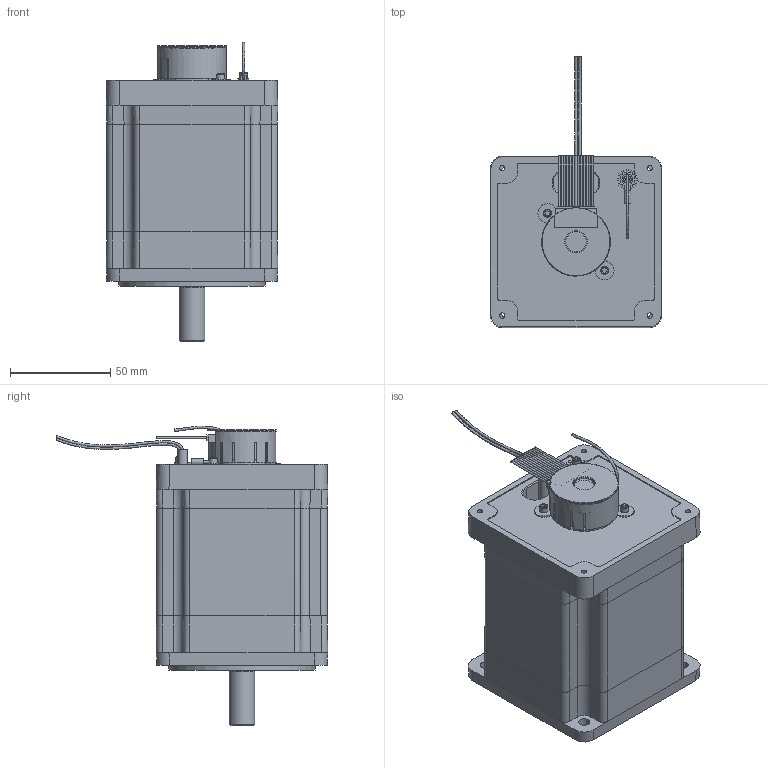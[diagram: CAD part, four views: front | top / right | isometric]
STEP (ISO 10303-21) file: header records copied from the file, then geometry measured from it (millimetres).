
FILE_DESCRIPTION((''),'2;1');
FILE_NAME('C:\CAD_work\Dummy_Modeling_Project_02-12-05\3D MODELS\BE342_FO.stp','2005-12-20T16:08:55',('jevans'),(''),'Autodesk Inventor 10','Autodesk Inventor 10','');
FILE_SCHEMA(('AUTOMOTIVE_DESIGN { 1 0 10303 214 1 1 1 1 }'));
Length unit declared in the file: inch
Products named in the file (1): BE34_FO
Bounding box: 85.66 x 135.58 x 149.76 mm (x, y, z)
Volume: 668768.9 mm3; surface area: 71826.1 mm2
Topology: 7 solids, 7 shells, 620 faces, 1591 edges, 1038 vertices
Faces by surface type: plane 350, cylinder 146, bspline 108, cone 15, torus 1
Full cylindrical faces by diameter (mm): 1.016 x13, 1.27 x1, 2.159 x2, 2.5 x2, 3.02 x1, 3.871 x1, 4.013 x3, 4.762 x1, 4.953 x1, 9.525 x2, 10.16 x1, 10.312 x1, 11.176 x1, 12.7 x1, 14.994 x1, 15 x1, 32 x1, 32.007 x1, 32.995 x1, 34.036 x1, 35.001 x1, 36.779 x1, 37.109 x1, 41.326 x3, 73.025 x1
Entity records: 22614 total; most frequent: CARTESIAN_POINT 8368, ORIENTED_EDGE 2982, DIRECTION 2651, EDGE_CURVE 1491, VERTEX_POINT 1013, VECTOR 935, LINE 935, AXIS2_PLACEMENT_3D 858
